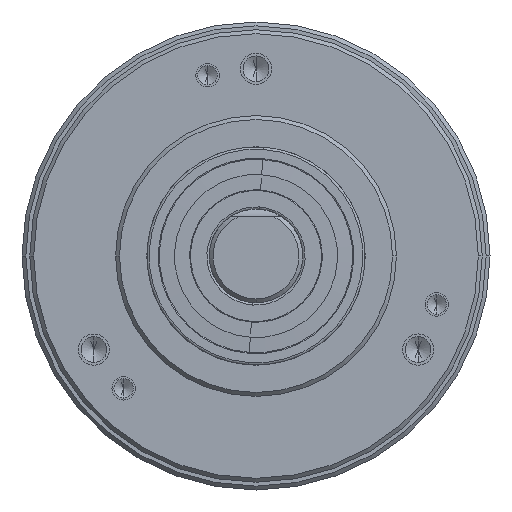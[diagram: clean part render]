
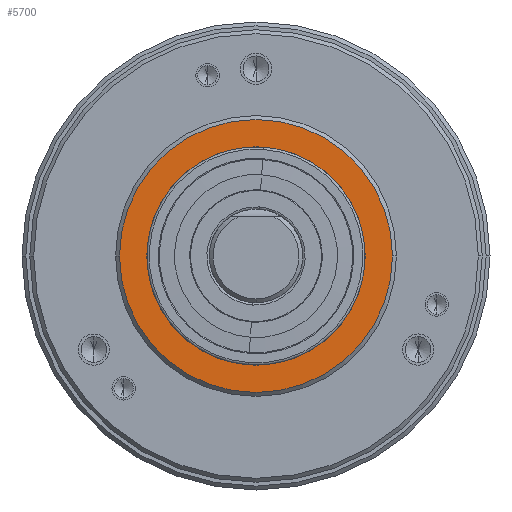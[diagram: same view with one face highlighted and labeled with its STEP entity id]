
A CAD part, front view. The second image highlights one B-rep face of the part: STEP entity #5700.
In plain terms, the highlighted planar face has unit normal (0, -1, 0).
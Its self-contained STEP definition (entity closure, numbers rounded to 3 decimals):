
#1908 = CARTESIAN_POINT ( 'NONE',  ( -17.5, 0., 0. ) ) ;
#1909 = DIRECTION ( 'NONE',  ( 1., 0., 0. ) ) ;
#1910 = DIRECTION ( 'NONE',  ( 0., -1., 0. ) ) ;
#1911 = AXIS2_PLACEMENT_3D ( 'NONE', #1917, #1910, #1909 ) ;
#1912 = CIRCLE ( 'NONE', #1911, 17.5 ) ;
#1917 = CARTESIAN_POINT ( 'NONE',  ( 0., 0., 0. ) ) ;
#1987 = CARTESIAN_POINT ( 'NONE',  ( 17.5, 0., 0. ) ) ;
#2324 = CARTESIAN_POINT ( 'NONE',  ( -14., 0., 0. ) ) ;
#2394 = CARTESIAN_POINT ( 'NONE',  ( 14., 0., 0. ) ) ;
#2395 = DIRECTION ( 'NONE',  ( 1., 0., 0. ) ) ;
#2396 = DIRECTION ( 'NONE',  ( 0., -1., 0. ) ) ;
#2397 = CARTESIAN_POINT ( 'NONE',  ( 0., 0., 0. ) ) ;
#2398 = AXIS2_PLACEMENT_3D ( 'NONE', #2397, #2396, #2395 ) ;
#2399 = CIRCLE ( 'NONE', #2398, 14. ) ;
#2905 = DIRECTION ( 'NONE',  ( 1., 0., 0. ) ) ;
#2906 = DIRECTION ( 'NONE',  ( 0., -1., 0. ) ) ;
#2908 = FACE_OUTER_BOUND ( 'NONE', #5449, .T. ) ;
#3015 = FACE_BOUND ( 'NONE', #5830, .T. ) ;
#3018 = CARTESIAN_POINT ( 'NONE',  ( 0., 0., 0. ) ) ;
#3019 = AXIS2_PLACEMENT_3D ( 'NONE', #3018, #2906, #2905 ) ;
#3021 = PLANE ( 'NONE',  #3019 ) ;
#3027 = DIRECTION ( 'NONE',  ( 0., -1., 0. ) ) ;
#3028 = CARTESIAN_POINT ( 'NONE',  ( 0., 0., 0. ) ) ;
#3029 = AXIS2_PLACEMENT_3D ( 'NONE', #3028, #3027, #3366 ) ;
#3035 = CIRCLE ( 'NONE', #3029, 17.5 ) ;
#3273 = CARTESIAN_POINT ( 'NONE',  ( 0., 0., 0. ) ) ;
#3302 = DIRECTION ( 'NONE',  ( 1., 0., 0. ) ) ;
#3303 = DIRECTION ( 'NONE',  ( 0., -1., 0. ) ) ;
#3304 = AXIS2_PLACEMENT_3D ( 'NONE', #3273, #3303, #3302 ) ;
#3305 = CIRCLE ( 'NONE', #3304, 14. ) ;
#3366 = DIRECTION ( 'NONE',  ( 1., 0., 0. ) ) ;
#5404 = EDGE_CURVE ( 'NONE', #5412, #5405, #1912, .T. ) ;
#5405 = VERTEX_POINT ( 'NONE', #1908 ) ;
#5412 = VERTEX_POINT ( 'NONE', #1987 ) ;
#5449 = EDGE_LOOP ( 'NONE', ( #5806, #5755 ) ) ;
#5542 = VERTEX_POINT ( 'NONE', #2324 ) ;
#5544 = EDGE_CURVE ( 'NONE', #5542, #5545, #2399, .T. ) ;
#5545 = VERTEX_POINT ( 'NONE', #2394 ) ;
#5700 = ADVANCED_FACE ( 'NONE', ( #2908, #3015 ), #3021, .T. ) ;
#5755 = ORIENTED_EDGE ( 'NONE', *, *, #5404, .T. ) ;
#5806 = ORIENTED_EDGE ( 'NONE', *, *, #5807, .T. ) ;
#5807 = EDGE_CURVE ( 'NONE', #5405, #5412, #3035, .T. ) ;
#5809 = ORIENTED_EDGE ( 'NONE', *, *, #5544, .F. ) ;
#5830 = EDGE_LOOP ( 'NONE', ( #5831, #5809 ) ) ;
#5831 = ORIENTED_EDGE ( 'NONE', *, *, #5832, .F. ) ;
#5832 = EDGE_CURVE ( 'NONE', #5545, #5542, #3305, .T. ) ;
